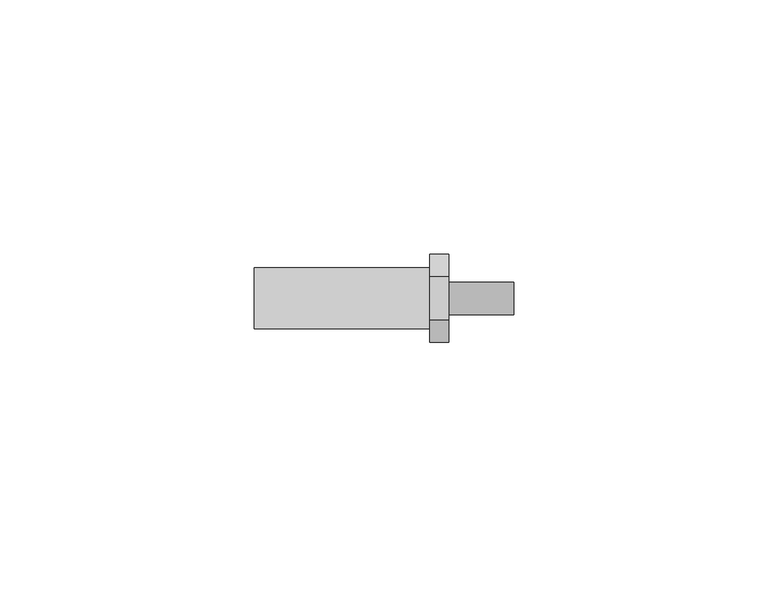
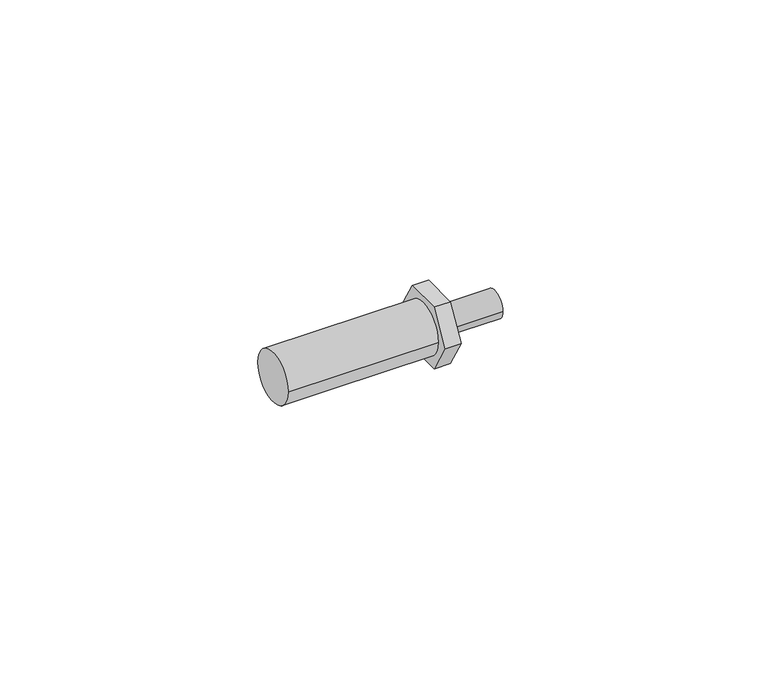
"""IFC4 building model written with IfcOpenShell, lengths in millimetres: pipe fitting geometry, 01011113 : Espiga conexion roscada."""

from ifc_helpers import new_model, si_unit, point, frame, origin, origin_2d, place, context, project, spatial, circle_curve, trimmed, segment, composite_curve, outline, extrude, source, transform, mapped, element, save
from ifc_brep_helpers import plane_surface, cylinder_surface, advanced_brep


def pipe_fitting_59a312c1(model_context):
    return source(origin(), model_context, "Body", "SolidModel", [
        extrude(outline(composite_curve([segment(trimmed(circle_curve(origin_2d(), 6.0), [point((6.0, 0.0))], [point((-6.0, 0.0))], False, "CARTESIAN"), True, "CONTINUOUS"), segment(trimmed(circle_curve(origin_2d(), 6.0), [point((-6.0, 0.0))], [point((6.0, 0.0))], False, "CARTESIAN"), True, "CONTINUOUS")], self_intersect=False)), frame((-25.5, 0.0, 0.0), z_axis=(1.0, 0.0, 0.0), x_axis=(0.0, 1.0, 0.0)), (0.0, 0.0, 1.0), 34.5),
        advanced_brep(
        [(12.75, -4.330127, 7.5), (12.75, -8.660254, 0.0), (12.75, -4.330127, -7.5), (12.75, 4.330127, -7.5), (12.75, 8.660254, 0.0), (12.75, 4.330127, 7.5), (12.75, -3.175, 0.0), (12.75, 3.175, 0.0), (9.0, -4.330127, 7.5), (9.0, 4.330127, 7.5), (9.0, 8.660254, 0.0), (9.0, 4.330127, -7.5), (9.0, -4.330127, -7.5), (9.0, -8.660254, 0.0), (25.5, -3.175, 0.0), (25.5, 3.175, 0.0)],
        [
            (0, 1),
            (1, 2),
            (2, 3),
            (3, 4),
            (4, 5),
            (5, 0),
            (6, 7, circle_curve(frame((12.75, 0.0, 0.0), z_axis=(-1.0, 0.0, 0.0), x_axis=(0.0, 1.0, 0.0)), 3.175)),
            (7, 6, circle_curve(frame((12.75, 0.0, 0.0), z_axis=(-1.0, 0.0, 0.0), x_axis=(0.0, 1.0, 0.0)), 3.175)),
            (8, 9),
            (9, 10),
            (10, 11),
            (11, 12),
            (12, 13),
            (13, 8),
            (0, 8),
            (13, 1),
            (12, 2),
            (11, 3),
            (10, 4),
            (9, 5),
            (14, 15, circle_curve(frame((25.5, 0.0, 0.0), z_axis=(1.0, 0.0, 0.0), x_axis=(0.0, 1.0, 0.0)), 3.175)),
            (15, 14, circle_curve(frame((25.5, 0.0, 0.0), z_axis=(1.0, 0.0, 0.0), x_axis=(0.0, 1.0, 0.0)), 3.175)),
            (15, 7),
            (6, 14),
        ],
        [
            plane_surface(frame((12.75, -4.330127, 7.5), z_axis=(1.0000000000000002, 0.0, 0.0), x_axis=(0.0, -0.5000000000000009, -0.8660254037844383))),
            plane_surface(frame((9.0, -4.330127, 7.5), z_axis=(-1.0000000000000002, 0.0, 0.0), x_axis=(0.0, 0.5000000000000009, 0.8660254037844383))),
            plane_surface(frame((12.75, -4.330127, 7.5), z_axis=(0.0, -0.8660254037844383, 0.5000000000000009), x_axis=(-1.0, 0.0, 0.0))),
            plane_surface(frame((12.75, -8.660254, 0.0), z_axis=(0.0, -0.8660254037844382, -0.5000000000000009), x_axis=(-1.0, 0.0, 0.0))),
            plane_surface(frame((12.75, -4.330127, -7.5), z_axis=(0.0, 0.0, -1.0), x_axis=(-1.0, 0.0, 0.0))),
            plane_surface(frame((12.75, 4.330127, -7.5), z_axis=(0.0, 0.8660254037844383, -0.5000000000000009), x_axis=(-1.0, 0.0, 0.0))),
            plane_surface(frame((12.75, 8.660254, 0.0), z_axis=(0.0, 0.8660254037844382, 0.500000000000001), x_axis=(-1.0, 0.0, 0.0))),
            plane_surface(frame((12.75, 4.330127, 7.5), z_axis=(0.0, 0.0, 1.0), x_axis=(-1.0, 0.0, 0.0))),
            plane_surface(frame((25.5, 0.0, 0.0), z_axis=(1.0, 0.0, 0.0), x_axis=(0.0, 0.0, 1.0))),
            cylinder_surface(frame((12.75, 0.0, 0.0), z_axis=(-1.0, 0.0, 0.0), x_axis=(0.0, 1.0, 0.0)), 3.175),
        ],
        [
            (0, [[1, 2, 3, 4, 5, 6], [7, 8]]),
            (1, [[9, 10, 11, 12, 13, 14]]),
            (2, [[-1, 15, -14, 16]]),
            (3, [[-2, -16, -13, 17]]),
            (4, [[-3, -17, -12, 18]]),
            (5, [[-4, -18, -11, 19]]),
            (6, [[-5, -19, -10, 20]]),
            (7, [[-6, -20, -9, -15]]),
            (8, [[21, 22]]),
            (9, [[-22, 23, -7, 24]]),
            (9, [[-21, -24, -8, -23]]),
        ],
    ),
    ])


if __name__ == "__main__":
    model = new_model("IFC4")
    model_context = context("Model", 3, world=origin())
    ifc_project = project(units=[si_unit("LENGTHUNIT", "METRE", prefix="MILLI")], contexts=[model_context])
    site = spatial("IfcSite", under=ifc_project)
    building = spatial("IfcBuilding", under=site)
    placement = place(None, origin())
    pipe_fitting_shape = pipe_fitting_59a312c1(model_context)
    element("IfcPipeFitting", 1, ObjectType="01011113 : Espiga conexion roscada", at=placement, inside=building, context=model_context, shape_type="MappedRepresentation", body=[
        mapped(pipe_fitting_shape, transform((0.0, 0.0, 0.0), x_axis=(1.0, 0.0, 0.0), y_axis=(0.0, 1.0, 0.0), z_axis=(0.0, 0.0, 1.0))),
    ])
    save(model, "model.ifc")
